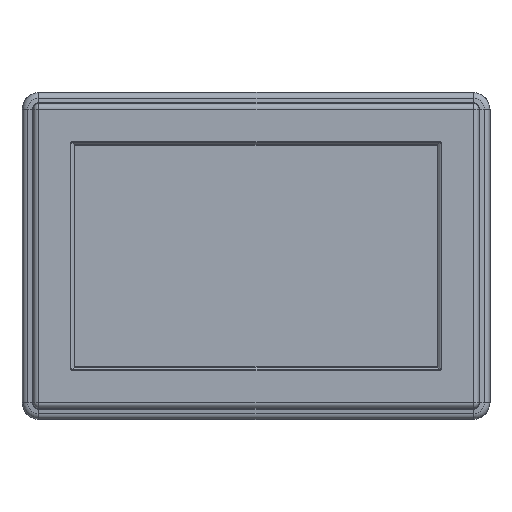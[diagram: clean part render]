
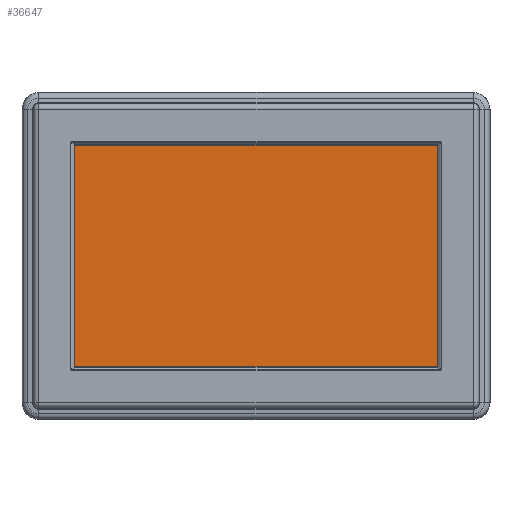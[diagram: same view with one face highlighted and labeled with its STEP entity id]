
A CAD part, front view. The second image highlights one B-rep face of the part: STEP entity #36647.
In plain terms, the highlighted planar face has unit normal (0, -1, 0) as drawn and (0, 0, -1) by its records, which use the part's own axes.
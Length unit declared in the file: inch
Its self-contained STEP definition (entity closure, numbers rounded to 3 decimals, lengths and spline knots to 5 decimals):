
#1994 = EDGE_LOOP ( 'NONE', ( #3576, #3578, #3580, #3582 ) ) ;
#3576 = ORIENTED_EDGE ( 'NONE', *, *, #28887, .T. ) ;
#3578 = ORIENTED_EDGE ( 'NONE', *, *, #28886, .T. ) ;
#3580 = ORIENTED_EDGE ( 'NONE', *, *, #28877, .T. ) ;
#3582 = ORIENTED_EDGE ( 'NONE', *, *, #28888, .T. ) ;
#5330 = FACE_OUTER_BOUND ( 'NONE', #1994, .T. ) ;
#16115 = VECTOR ( 'NONE', #23402, 39.37008 ) ;
#16117 = LINE ( 'NONE', #23401, #16115 ) ;
#16145 = LINE ( 'NONE', #23411, #16173 ) ;
#16173 = VECTOR ( 'NONE', #23420, 39.37008 ) ;
#16175 = LINE ( 'NONE', #23421, #16176 ) ;
#16176 = VECTOR ( 'NONE', #23422, 39.37008 ) ;
#16177 = LINE ( 'NONE', #23423, #16178 ) ;
#16178 = VECTOR ( 'NONE', #23424, 39.37008 ) ;
#16443 = AXIS2_PLACEMENT_3D ( 'NONE', #39809, #39814, #39815 ) ;
#23401 = CARTESIAN_POINT ( 'NONE',  ( 2.75007, -4.5125, 0.07 ) ) ;
#23402 = DIRECTION ( 'NONE',  ( 0., -1., 0. ) ) ;
#23411 = CARTESIAN_POINT ( 'NONE',  ( 2.7625, 4.50007, 0.07 ) ) ;
#23420 = DIRECTION ( 'NONE',  ( 1., 0., 0. ) ) ;
#23421 = CARTESIAN_POINT ( 'NONE',  ( -2.75007, 4.5125, 0.07 ) ) ;
#23422 = DIRECTION ( 'NONE',  ( 0., 1., 0. ) ) ;
#23423 = CARTESIAN_POINT ( 'NONE',  ( -2.7625, -4.50007, 0.07 ) ) ;
#23424 = DIRECTION ( 'NONE',  ( -1., 0., 0. ) ) ;
#28877 = EDGE_CURVE ( 'NONE', #41376, #41512, #16117, .T. ) ;
#28886 = EDGE_CURVE ( 'NONE', #41736, #41376, #16145, .T. ) ;
#28887 = EDGE_CURVE ( 'NONE', #41399, #41736, #16175, .T. ) ;
#28888 = EDGE_CURVE ( 'NONE', #41512, #41399, #16177, .T. ) ;
#34496 = CARTESIAN_POINT ( 'NONE',  ( 2.75007, 4.50007, 0.07 ) ) ;
#34516 = CARTESIAN_POINT ( 'NONE',  ( -2.75007, -4.50007, 0.07 ) ) ;
#34612 = CARTESIAN_POINT ( 'NONE',  ( 2.75007, -4.50007, 0.07 ) ) ;
#34912 = CARTESIAN_POINT ( 'NONE',  ( -2.75007, 4.50007, 0.07 ) ) ;
#36647 = ADVANCED_FACE ( 'NONE', ( #5330 ), #39811, .F. ) ;
#39809 = CARTESIAN_POINT ( 'NONE',  ( 2.8325, 4.5825, 0.07 ) ) ;
#39811 = PLANE ( 'NONE',  #16443 ) ;
#39814 = DIRECTION ( 'NONE',  ( 0., 0., 1. ) ) ;
#39815 = DIRECTION ( 'NONE',  ( 1., 0., 0. ) ) ;
#41376 = VERTEX_POINT ( 'NONE', #34496 ) ;
#41399 = VERTEX_POINT ( 'NONE', #34516 ) ;
#41512 = VERTEX_POINT ( 'NONE', #34612 ) ;
#41736 = VERTEX_POINT ( 'NONE', #34912 ) ;
